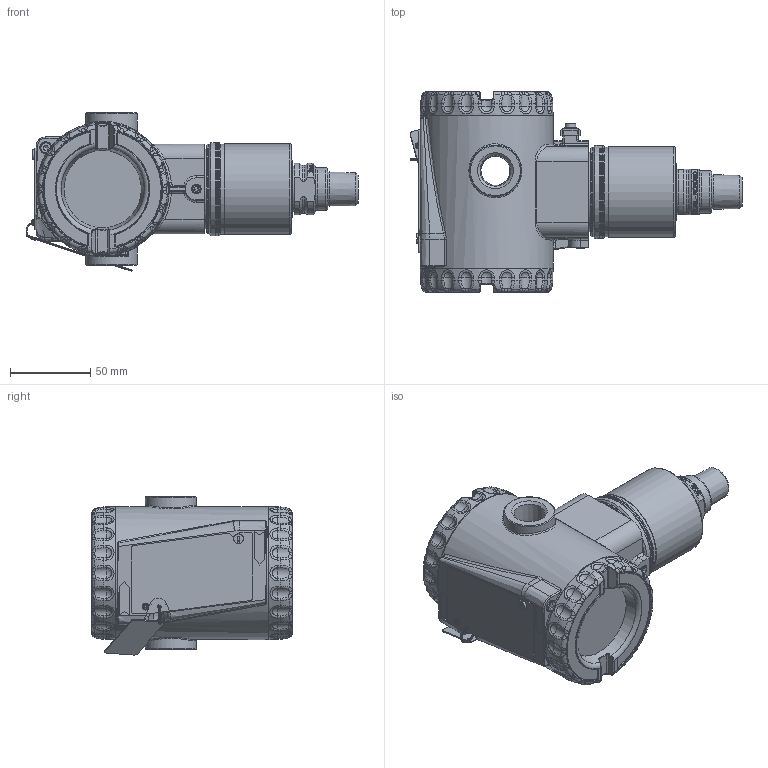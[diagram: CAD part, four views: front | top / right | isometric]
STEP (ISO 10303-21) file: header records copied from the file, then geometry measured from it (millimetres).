
FILE_DESCRIPTION(/* description */ (''),/* implementation_level */ '2;1');
FILE_NAME(/* name */ 'F:\Area\Desenvolvimento_2\Projects\Sensor\projetos\LD400-3d\dimensionais 3D clientes\LD400G\LD400G5 1-2 NPT macho.stp',/* time_stamp */ '2023-02-02T17:00:49-03:00',/* author */ ('inventor02'),/* organization */ (''),/* preprocessor_version */ 'ST-DEVELOPER v17',/* originating_system */ 'Autodesk Inventor 2019',/* authorisation */ '');
FILE_SCHEMA (('CONFIG_CONTROL_DESIGN'));
Products named in the file (27): LD400G5 1-2 NPT macho; SENSOR 29X FX5 1-2NPT MACHO; 101-B-5897-01 capa fx5; 101-C-3677-06 conexao ao processo 1-2NPT; 101-D-1309-04 pescoço LD29x usinado; 101-B-1611-06 conexão 1-2NPT macho; Carcaça 400 com tampas e plaqueta sem letras; 101-D-0845-05 carcaça LD400 sem letras; 101-B-3614-03-tampa 400 sem letras; Tampa visor 400 montada sem letras; 101-B-3612-05 tampa visor 400 sem letras; 101-A-6107; oring 2034; 00034775-0; WHW_250; DIN 915 - M6 x 10; Chapa aterramento externo; 201-A-1771-02 inserto terra recartilhado; AS 1969 - ST4,2; ISO 1207 - M4 x 8; ANSI B18.3.1M - M4x0,7 x 8; Subconjunto plaqueta 400; plaqueta 400 em branco; Parafuso da Plaqueta; Rebite da Plaqueta; 096-A-0169-03; 101-A-0502-01
Assembly tree (27 placements, depth 4):
  LD400G5 1-2 NPT macho
    SENSOR 29X FX5 1-2NPT MACHO
      101-B-5897-01 capa fx5
      101-C-3677-06 conexao ao processo 1-2NPT
      101-D-1309-04 pescoço LD29x usinado
      101-B-1611-06 conexão 1-2NPT macho
    Carcaça 400 com tampas e plaqueta sem letras
      101-D-0845-05 carcaça LD400 sem letras
      101-B-3614-03-tampa 400 sem letras
      Tampa visor 400 montada sem letras
        101-B-3612-05 tampa visor 400 sem letras
        101-A-6107
        oring 2034
        00034775-0
        WHW_250
      DIN 915 - M6 x 10
      Chapa aterramento externo
      201-A-1771-02 inserto terra recartilhado
      AS 1969 - ST4,2
      ISO 1207 - M4 x 8
      ANSI B18.3.1M - M4x0,7 x 8  x2
      Subconjunto plaqueta 400
        plaqueta 400 em branco
        Parafuso da Plaqueta
        Rebite da Plaqueta
        096-A-0169-03
        101-A-0502-01
Bounding box: 207.05 x 125 x 98.64 mm (x, y, z)
Volume: 448601.4 mm3; surface area: 188522.3 mm2
Topology: 23 solids, 23 shells, 1960 faces, 4859 edges, 2965 vertices
Faces by surface type: plane 548, bspline 513, cylinder 438, torus 272, cone 134, sphere 55
Full cylindrical faces by diameter (mm): 2 x2, 2.1 x1, 2.2 x1, 2.459 x3, 2.7 x1, 3 x1, 3.242 x3, 3.5 x4, 3.571 x1, 4 x4, 4.3 x2, 4.4 x1, 4.917 x1, 6 x2, 6.1 x2, 6.2 x1, 7 x2, 7.6 x2, 8 x1, 17.5 x1, 18 x1, 18.3 x2, 21.6 x1, 26.5 x2, 28.399 x1, 32 x2, 32.2 x1, 34.15 x1, 35.15 x1, 35.2 x1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
Entity records: 75866 total; most frequent: CARTESIAN_POINT 30578, ORIENTED_EDGE 9550, DIRECTION 8868, EDGE_CURVE 4775, AXIS2_PLACEMENT_3D 3674, VERTEX_POINT 2936, CIRCLE 2100, EDGE_LOOP 2047
